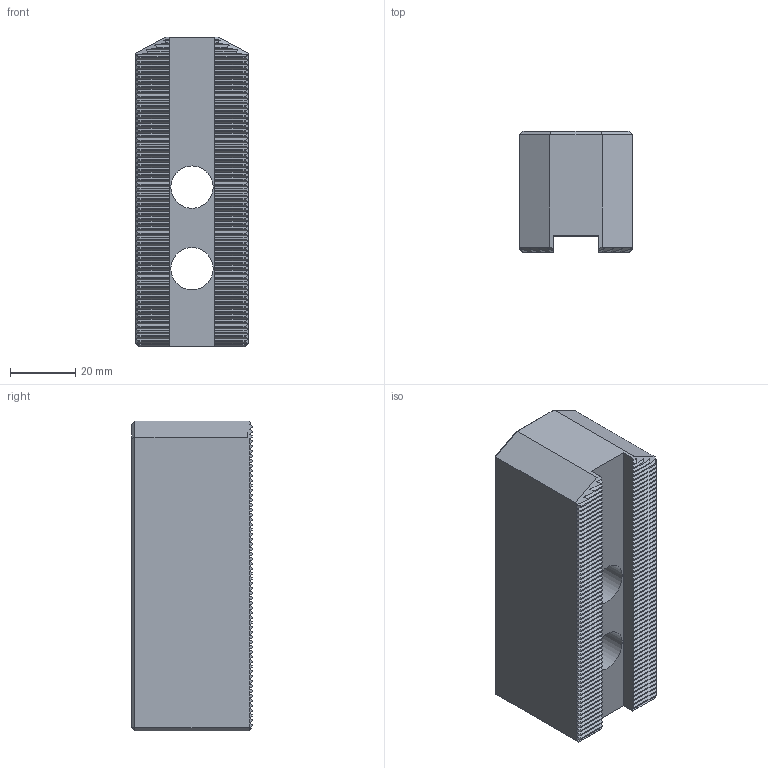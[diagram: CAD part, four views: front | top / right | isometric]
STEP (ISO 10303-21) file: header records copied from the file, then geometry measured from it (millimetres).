
FILE_DESCRIPTION(/* description */ (''),/* implementation_level */ '2;1');
FILE_NAME(/* name */ 'SC-08 120.stp',/* time_stamp */ '2024-09-11T15:52:29+03:00',/* author */ ('KanaanMD'),/* organization */ (''),/* preprocessor_version */ 'ST-DEVELOPER v19.2',/* originating_system */ 'Autodesk Inventor 2024',/* authorisation */ '');
FILE_SCHEMA (('AUTOMOTIVE_DESIGN { 1 0 10303 214 3 1 1 }'));
Length unit declared in the file: millimetre
Products named in the file (1): SC-08 120°
Bounding box: 34.5 x 37 x 95 mm (x, y, z)
Volume: 96802.1 mm3; surface area: 20361.4 mm2
Topology: 1 solids, 1 shells, 528 faces, 1322 edges, 798 vertices
Faces by surface type: plane 522, cylinder 4, cone 2
Full cylindrical faces by diameter (mm): 13 x2, 19 x2
Entity records: 15149 total; most frequent: CARTESIAN_POINT 2649, ORIENTED_EDGE 2644, DIRECTION 2392, EDGE_CURVE 1322, LINE 1310, VECTOR 1310, VERTEX_POINT 798, AXIS2_PLACEMENT_3D 541
